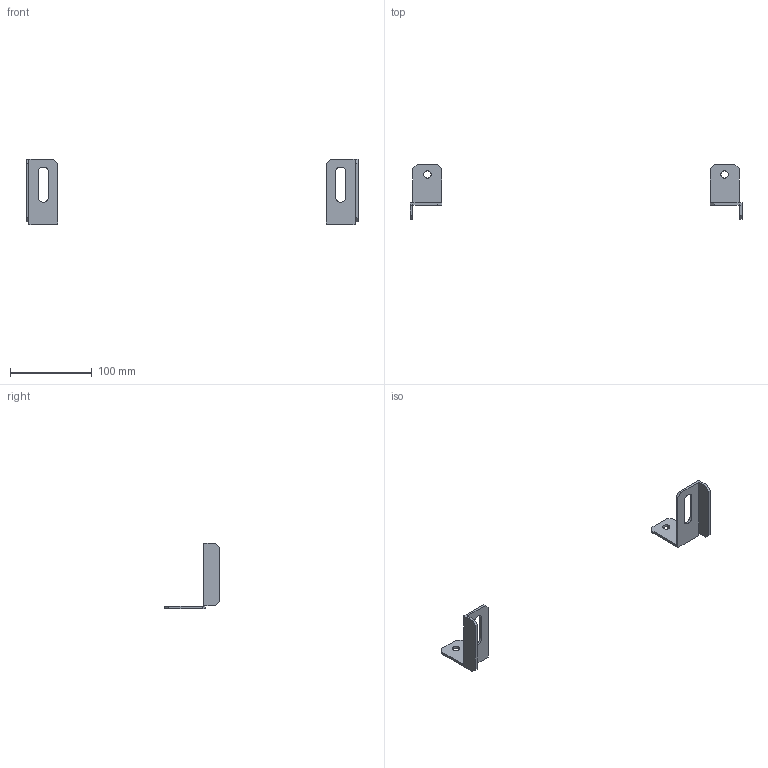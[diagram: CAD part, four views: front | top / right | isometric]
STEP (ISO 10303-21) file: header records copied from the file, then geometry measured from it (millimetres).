
FILE_DESCRIPTION(('Open CASCADE Model'),'2;1');
FILE_NAME('Open CASCADE Shape Model','2025-03-31T08:49:38',('Author'),( 'Open CASCADE'),'Open CASCADE STEP processor 7.8','Open CASCADE 7.8' ,'Unknown');
FILE_SCHEMA(('AUTOMOTIVE_DESIGN { 1 0 10303 214 1 1 1 1 }'));
Length unit declared in the file: millimetre
Products named in the file (3): Compound1; Solid1; Solid2
Assembly tree (2 placements, depth 2):
  Compound1
    Solid1
    Solid2
Bounding box: 406.6 x 67 x 80 mm (x, y, z)
Volume: 32524.7 mm3; surface area: 24566 mm2
Topology: 2 solids, 2 shells, 56 faces, 156 edges, 104 vertices
Faces by surface type: plane 50, cylinder 6
Full cylindrical faces by diameter (mm): 9 x2
Entity records: 1830 total; most frequent: CARTESIAN_POINT 321, ORIENTED_EDGE 312, DIRECTION 284, EDGE_CURVE 156, LINE 142, VECTOR 142, VERTEX_POINT 104, AXIS2_PLACEMENT_3D 71
